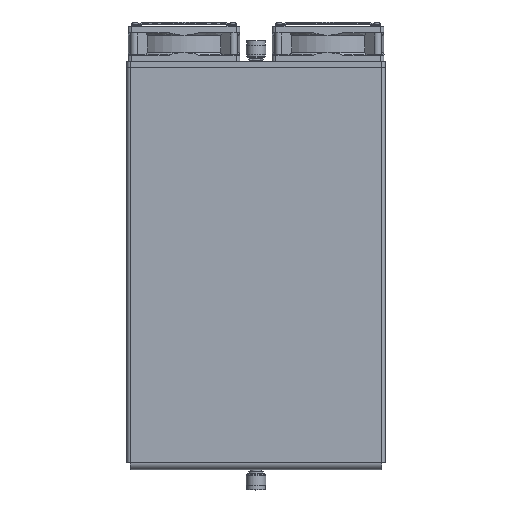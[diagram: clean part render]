
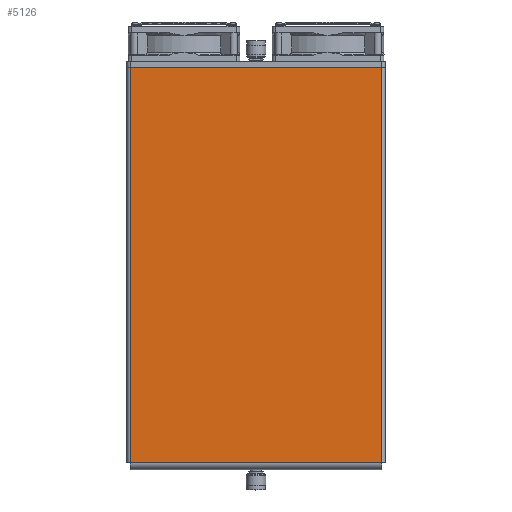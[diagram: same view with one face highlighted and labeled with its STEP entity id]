
A CAD part, top view. The second image highlights one B-rep face of the part: STEP entity #5126.
In plain terms, the highlighted planar face has unit normal (0, 0, 1).
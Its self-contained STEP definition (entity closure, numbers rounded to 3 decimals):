
#5126=ADVANCED_FACE('',(#21107),#21109,.T.);
#21107=FACE_BOUND('',#21108,.T.);
#21108=EDGE_LOOP('',(#38935,#38936,#38937,#38938));
#21109=PLANE('',#21110);
#21110=AXIS2_PLACEMENT_3D('',#21111,#21112,#21113);
#21111=CARTESIAN_POINT('',(0.,0.,121.5));
#21112=DIRECTION('',(0.,0.,1.));
#21113=DIRECTION('',(0.,-1.,0.));
#38935=ORIENTED_EDGE('',*,*,#47389,.T.);
#38936=ORIENTED_EDGE('',*,*,#47400,.T.);
#38937=ORIENTED_EDGE('',*,*,#47401,.T.);
#38938=ORIENTED_EDGE('',*,*,#47402,.T.);
#47389=EDGE_CURVE('',#52514,#52512,#52515,.T.);
#47400=EDGE_CURVE('',#52512,#52531,#52532,.T.);
#47401=EDGE_CURVE('',#52531,#52533,#52534,.T.);
#47402=EDGE_CURVE('',#52533,#52514,#52535,.T.);
#52512=VERTEX_POINT('',#61919);
#52514=VERTEX_POINT('',#61924);
#52515=LINE('',#61925,#61926);
#52531=VERTEX_POINT('',#61965);
#52532=LINE('',#61966,#61967);
#52533=VERTEX_POINT('',#61969);
#52534=LINE('',#61970,#61971);
#52535=LINE('',#61973,#61974);
#61919=CARTESIAN_POINT('',(135.,212.5,121.5));
#61924=CARTESIAN_POINT('',(135.,-212.5,121.5));
#61925=CARTESIAN_POINT('',(135.,-212.5,121.5));
#61926=VECTOR('',#61927,1.);
#61927=DIRECTION('',(0.,1.,0.));
#61965=CARTESIAN_POINT('',(-135.,212.5,121.5));
#61966=CARTESIAN_POINT('',(135.,212.5,121.5));
#61967=VECTOR('',#61968,1.);
#61968=DIRECTION('',(-1.,0.,0.));
#61969=CARTESIAN_POINT('',(-135.,-212.5,121.5));
#61970=CARTESIAN_POINT('',(-135.,212.5,121.5));
#61971=VECTOR('',#61972,1.);
#61972=DIRECTION('',(0.,-1.,0.));
#61973=CARTESIAN_POINT('',(-135.,-212.5,121.5));
#61974=VECTOR('',#61975,1.);
#61975=DIRECTION('',(1.,0.,0.));
